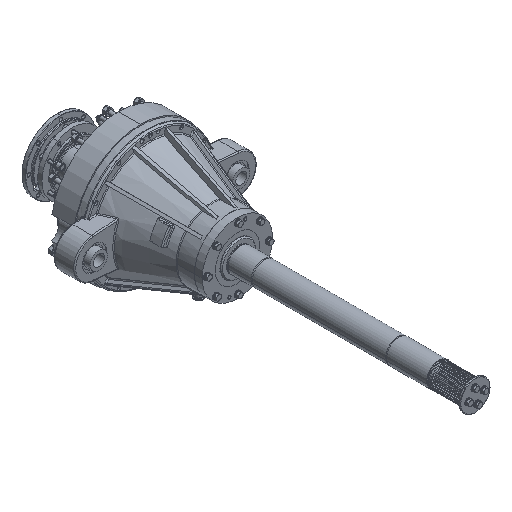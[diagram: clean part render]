
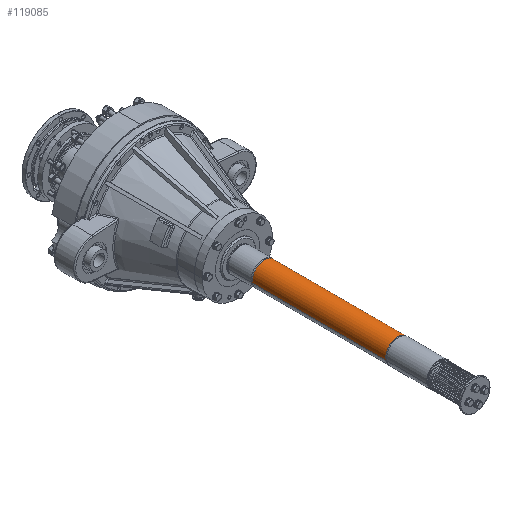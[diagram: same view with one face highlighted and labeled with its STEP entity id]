
A CAD part, isometric view. The second image highlights one B-rep face of the part: STEP entity #119085.
In plain terms, the highlighted cylindrical face has radius 34.722 mm (diameter 69.444 mm), a partial arc.
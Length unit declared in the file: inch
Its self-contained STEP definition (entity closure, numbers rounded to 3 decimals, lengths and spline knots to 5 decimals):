
#1599 = CARTESIAN_POINT ( 'NONE',  ( 28.833, 0., 1.367 ) ) ;
#1977 = LINE ( 'NONE', #1599, #57765 ) ;
#5864 = ORIENTED_EDGE ( 'NONE', *, *, #119612, .T. ) ;
#10837 = EDGE_LOOP ( 'NONE', ( #88222, #5864, #109385, #55684 ) ) ;
#20015 = DIRECTION ( 'NONE',  ( -1., 0., 0. ) ) ;
#20089 = CIRCLE ( 'NONE', #94338, 1.367 ) ;
#21116 = EDGE_CURVE ( 'NONE', #38634, #29780, #20089, .T. ) ;
#22021 = AXIS2_PLACEMENT_3D ( 'NONE', #125035, #58400, #136122 ) ;
#29780 = VERTEX_POINT ( 'NONE', #105510 ) ;
#31294 = VERTEX_POINT ( 'NONE', #140045 ) ;
#35231 = DIRECTION ( 'NONE',  ( -1., 0., 0. ) ) ;
#37397 = CARTESIAN_POINT ( 'NONE',  ( 28.833, 0., -1.367 ) ) ;
#38634 = VERTEX_POINT ( 'NONE', #61726 ) ;
#50937 = CYLINDRICAL_SURFACE ( 'NONE', #109754, 1.367 ) ;
#51180 = EDGE_CURVE ( 'NONE', #140021, #31294, #71064, .T. ) ;
#55684 = ORIENTED_EDGE ( 'NONE', *, *, #99669, .F. ) ;
#57765 = VECTOR ( 'NONE', #35231, 39.37008 ) ;
#58400 = DIRECTION ( 'NONE',  ( 1., 0., 0. ) ) ;
#61726 = CARTESIAN_POINT ( 'NONE',  ( 23.69827, 0., 1.367 ) ) ;
#71064 = CIRCLE ( 'NONE', #22021, 1.367 ) ;
#86735 = CARTESIAN_POINT ( 'NONE',  ( 23.69827, 0., 0. ) ) ;
#88222 = ORIENTED_EDGE ( 'NONE', *, *, #21116, .T. ) ;
#89213 = CARTESIAN_POINT ( 'NONE',  ( 28.833, 0., 0. ) ) ;
#94338 = AXIS2_PLACEMENT_3D ( 'NONE', #86735, #20015, #97949 ) ;
#94426 = LINE ( 'NONE', #37397, #123917 ) ;
#97396 = CARTESIAN_POINT ( 'NONE',  ( 8.58773, 0., -1.367 ) ) ;
#97949 = DIRECTION ( 'NONE',  ( 0., 0., 1. ) ) ;
#99669 = EDGE_CURVE ( 'NONE', #38634, #31294, #1977, .T. ) ;
#100398 = DIRECTION ( 'NONE',  ( -1., 0., 0. ) ) ;
#104105 = DIRECTION ( 'NONE',  ( -1., 0., 0. ) ) ;
#105510 = CARTESIAN_POINT ( 'NONE',  ( 23.69827, 0., -1.367 ) ) ;
#109385 = ORIENTED_EDGE ( 'NONE', *, *, #51180, .T. ) ;
#109754 = AXIS2_PLACEMENT_3D ( 'NONE', #89213, #100398, #111556 ) ;
#111556 = DIRECTION ( 'NONE',  ( 0., 0., 1. ) ) ;
#119085 = ADVANCED_FACE ( 'NONE', ( #120593 ), #50937, .T. ) ;
#119612 = EDGE_CURVE ( 'NONE', #29780, #140021, #94426, .T. ) ;
#120593 = FACE_OUTER_BOUND ( 'NONE', #10837, .T. ) ;
#123917 = VECTOR ( 'NONE', #104105, 39.37008 ) ;
#125035 = CARTESIAN_POINT ( 'NONE',  ( 8.58773, 0., 0. ) ) ;
#136122 = DIRECTION ( 'NONE',  ( 0., 0., 1. ) ) ;
#140021 = VERTEX_POINT ( 'NONE', #97396 ) ;
#140045 = CARTESIAN_POINT ( 'NONE',  ( 8.58773, 0., 1.367 ) ) ;
